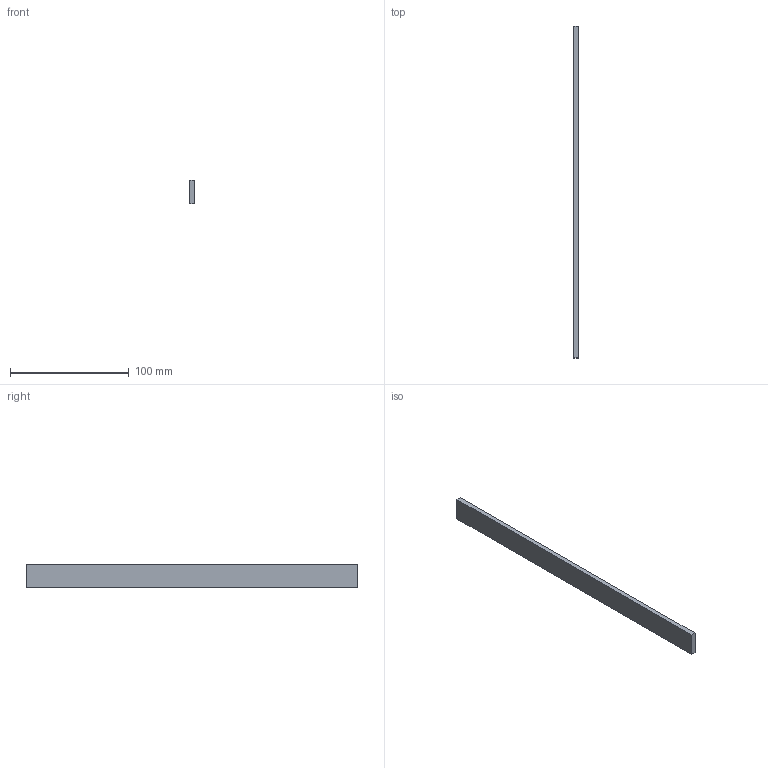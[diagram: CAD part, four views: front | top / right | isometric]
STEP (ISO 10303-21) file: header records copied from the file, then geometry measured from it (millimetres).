
FILE_DESCRIPTION(('Open CASCADE Model'),'2;1');
FILE_NAME('Open CASCADE Shape Model','2026-10-16T18:52:00',('Author'),( 'Open CASCADE'),'Open CASCADE STEP processor 7.8','Open CASCADE 7.8' ,'Unknown');
FILE_SCHEMA(('AUTOMOTIVE_DESIGN { 1 0 10303 214 1 1 1 1 }'));
Length unit declared in the file: millimetre
Products named in the file (1): Open CASCADE STEP translator 7.8 50
Bounding box: 4 x 280 x 20 mm (x, y, z)
Volume: 22400 mm3; surface area: 13600 mm2
Topology: 1 solids, 1 shells, 6 faces, 12 edges, 8 vertices
Faces by surface type: plane 6
Entity records: 322 total; most frequent: CARTESIAN_POINT 51, DIRECTION 50, LINE 36, VECTOR 36, ORIENTED_EDGE 24, PCURVE 24, DEFINITIONAL_REPRESENTATION 24, EDGE_CURVE 12
